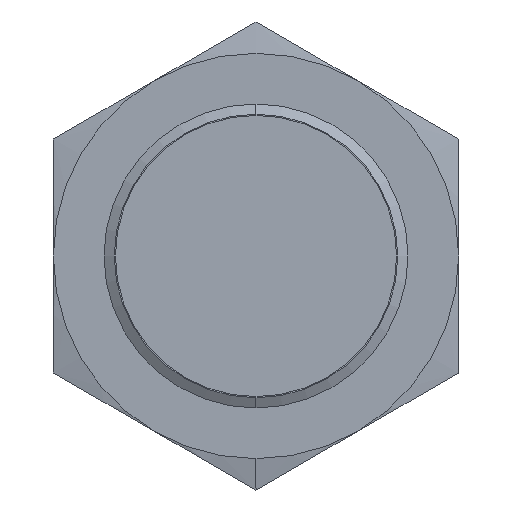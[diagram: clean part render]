
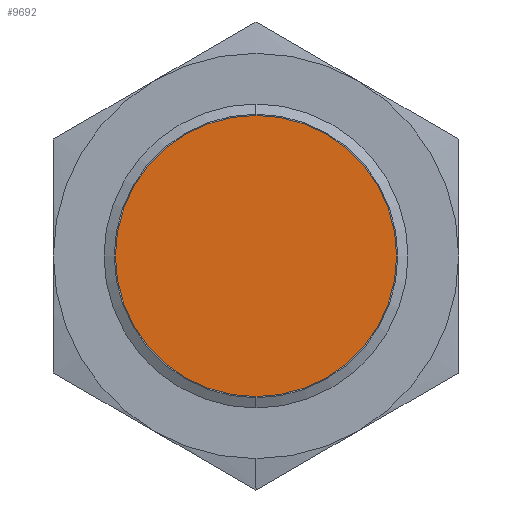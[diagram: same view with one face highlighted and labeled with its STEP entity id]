
A CAD part, left-side view. The second image highlights one B-rep face of the part: STEP entity #9692.
In plain terms, the highlighted planar face has unit normal (-1, 0, 0).
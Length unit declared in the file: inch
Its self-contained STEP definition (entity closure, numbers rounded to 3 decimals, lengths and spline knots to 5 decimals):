
#1131 = CARTESIAN_POINT ( 'NONE',  ( 7.83468, 8.44799, 0.3275 ) ) ;
#1231 = CIRCLE ( 'NONE', #1232, 0.3275 ) ;
#1232 = AXIS2_PLACEMENT_3D ( 'NONE', #1233, #1235, #1236 ) ;
#1233 = CARTESIAN_POINT ( 'NONE',  ( 7.83468, 8.44799, 0. ) ) ;
#1235 = DIRECTION ( 'NONE',  ( 1., 0., 0. ) ) ;
#1236 = DIRECTION ( 'NONE',  ( 0., 0., 1. ) ) ;
#2226 = CARTESIAN_POINT ( 'NONE',  ( 7.83468, 8.44799, -0.3275 ) ) ;
#3860 = FACE_OUTER_BOUND ( 'NONE', #9646, .T. ) ;
#3861 = PLANE ( 'NONE',  #3862 ) ;
#3862 = AXIS2_PLACEMENT_3D ( 'NONE', #3863, #3864, #3865 ) ;
#3863 = CARTESIAN_POINT ( 'NONE',  ( 7.83468, 8.44799, 0. ) ) ;
#3864 = DIRECTION ( 'NONE',  ( 1., 0., 0. ) ) ;
#3865 = DIRECTION ( 'NONE',  ( 0., 0., -1. ) ) ;
#4012 = CIRCLE ( 'NONE', #4013, 0.3275 ) ;
#4013 = AXIS2_PLACEMENT_3D ( 'NONE', #4019, #4020, #4021 ) ;
#4019 = CARTESIAN_POINT ( 'NONE',  ( 7.83468, 8.44799, 0. ) ) ;
#4020 = DIRECTION ( 'NONE',  ( 1., 0., 0. ) ) ;
#4021 = DIRECTION ( 'NONE',  ( 0., 0., 1. ) ) ;
#7151 = VERTEX_POINT ( 'NONE', #1131 ) ;
#7389 = EDGE_CURVE ( 'NONE', #8404, #7151, #1231, .T. ) ;
#8404 = VERTEX_POINT ( 'NONE', #2226 ) ;
#9148 = ORIENTED_EDGE ( 'NONE', *, *, #7389, .F. ) ;
#9529 = ORIENTED_EDGE ( 'NONE', *, *, #9781, .F. ) ;
#9646 = EDGE_LOOP ( 'NONE', ( #9529, #9148 ) ) ;
#9692 = ADVANCED_FACE ( 'NONE', ( #3860 ), #3861, .F. ) ;
#9781 = EDGE_CURVE ( 'NONE', #7151, #8404, #4012, .T. ) ;
